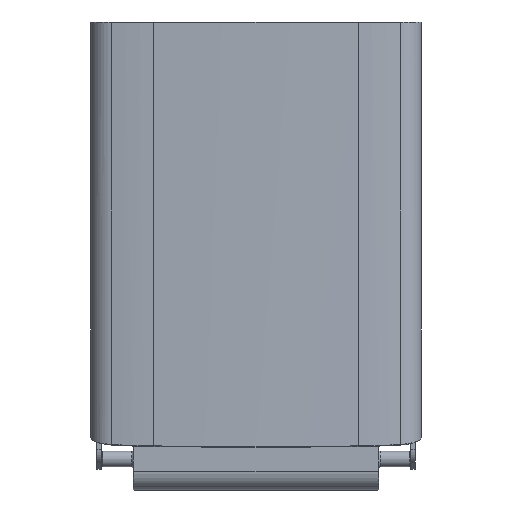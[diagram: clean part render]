
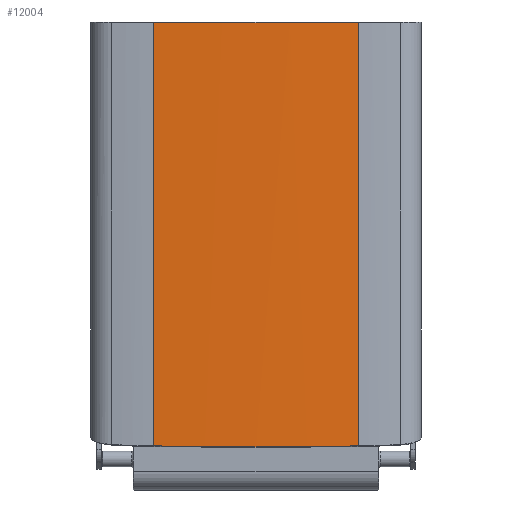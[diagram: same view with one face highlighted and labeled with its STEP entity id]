
A CAD part, top view. The second image highlights one B-rep face of the part: STEP entity #12004.
In plain terms, the highlighted cylindrical face has radius 4500 mm (diameter 9000 mm), a partial arc.
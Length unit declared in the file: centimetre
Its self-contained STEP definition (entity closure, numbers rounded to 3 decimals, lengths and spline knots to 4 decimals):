
#40=ELLIPSE('',#13045,478.8675,450.);
#1151=FACE_OUTER_BOUND('',#2002,.T.);
#2002=EDGE_LOOP('',(#8598,#8599,#8600,#8601));
#2986=LINE('',#19337,#3726);
#2987=LINE('',#19341,#3727);
#3726=VECTOR('',#15226,70.6828);
#3727=VECTOR('',#15231,70.6828);
#4445=CIRCLE('',#12990,450.);
#5315=VERTEX_POINT('',#19244);
#5317=VERTEX_POINT('',#19250);
#5341=VERTEX_POINT('',#19336);
#5342=VERTEX_POINT('',#19340);
#6538=EDGE_CURVE('',#5315,#5317,#4445,.T.);
#6581=EDGE_CURVE('',#5341,#5317,#2986,.T.);
#6583=EDGE_CURVE('',#5342,#5315,#2987,.T.);
#6584=EDGE_CURVE('',#5341,#5342,#40,.T.);
#8598=ORIENTED_EDGE('',*,*,#6538,.F.);
#8599=ORIENTED_EDGE('',*,*,#6583,.F.);
#8600=ORIENTED_EDGE('',*,*,#6584,.F.);
#8601=ORIENTED_EDGE('',*,*,#6581,.T.);
#11011=CYLINDRICAL_SURFACE('',#13044,450.);
#12004=ADVANCED_FACE('',(#1151),#11011,.T.);
#12990=AXIS2_PLACEMENT_3D('',#19254,#15113,#15114);
#13044=AXIS2_PLACEMENT_3D('',#19339,#15229,#15230);
#13045=AXIS2_PLACEMENT_3D('',#19342,#15232,#15233);
#15113=DIRECTION('center_axis',(0.,1.,0.));
#15114=DIRECTION('ref_axis',(0.,0.,
1.));
#15226=DIRECTION('',(0.,1.,0.));
#15229=DIRECTION('center_axis',(0.,1.,0.));
#15230=DIRECTION('ref_axis',(-0.038,0.,
0.999));
#15231=DIRECTION('',(0.,1.,0.));
#15232=DIRECTION('center_axis',(0.,-0.94,
-0.342));
#15233=DIRECTION('ref_axis',(0.,-0.342,0.94));
#19244=CARTESIAN_POINT('',(-17.037,62.7769,9.6635));
#19250=CARTESIAN_POINT('',(17.037,62.7769,9.6635));
#19254=CARTESIAN_POINT('Origin',(0.,62.7769,
-440.0139));
#19336=CARTESIAN_POINT('',(17.037,-7.9059,9.6635));
#19337=CARTESIAN_POINT('',(17.037,27.3554,9.6635));
#19339=CARTESIAN_POINT('Origin',(0.,27.3554,
-440.0139));
#19340=CARTESIAN_POINT('',(-17.037,-7.9059,9.6635));
#19341=CARTESIAN_POINT('',(-17.037,27.3554,9.6635));
#19342=CARTESIAN_POINT('Origin',(0.,155.727,
-440.0139));
